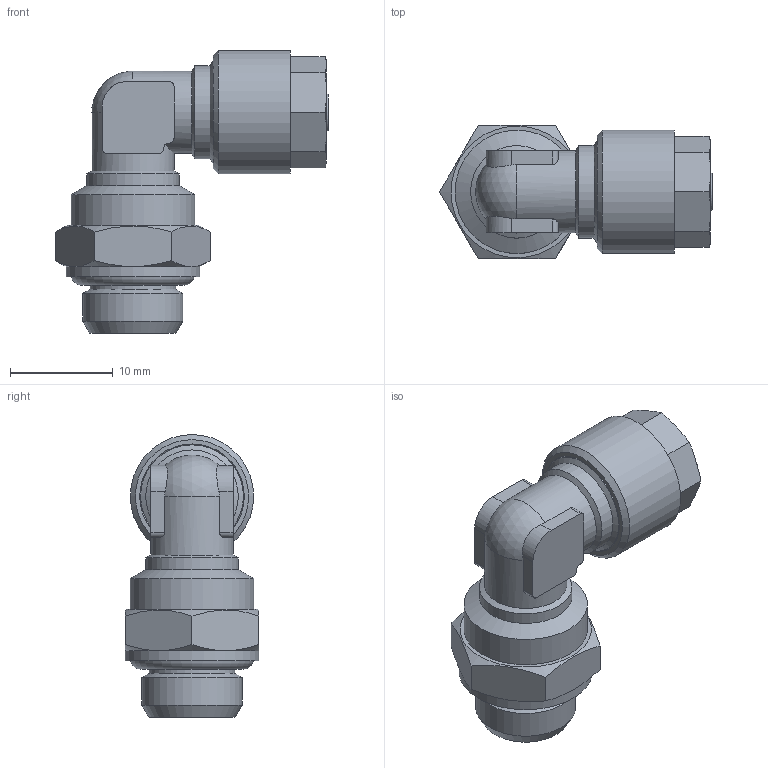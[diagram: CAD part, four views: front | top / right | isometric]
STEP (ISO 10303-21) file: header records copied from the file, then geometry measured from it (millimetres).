
FILE_DESCRIPTION(/* description */ (''),/* implementation_level */ '2;1');
FILE_NAME(/* name */ '11151_305DZ_64_G18_19.07.17',/* time_stamp */ '2017-07-19T11:50:46+02:00',/* author */ (''),/* organization */ (''),/* preprocessor_version */ 'ST-DEVELOPER v16.5',/* originating_system */ 'HiCAD 2016 2102.2 Build 618',/* authorisation */ '');
FILE_SCHEMA (('AUTOMOTIVE_DESIGN { 1 0 10303 214 1 1 1 1 }'));
Length unit declared in the file: millimetre
Products named in the file (5): Root; OR 7.2X1.9; 17005; R11151-N2; 214661-N2
Assembly tree (4 placements, depth 2):
  Root
    OR 7.2X1.9
    17005
    R11151-N2
    214661-N2
Bounding box: 26.51 x 13 x 27.5 mm (x, y, z)
Volume: 2811.8 mm3; surface area: 3459.8 mm2
Topology: 4 solids, 4 shells, 118 faces, 282 edges, 176 vertices
Faces by surface type: plane 42, cone 37, cylinder 34, torus 4, sphere 1
Full cylindrical faces by diameter (mm): 3.2 x1, 4 x1, 4.3 x1, 4.5 x1, 6 x2, 6.2 x1, 6.8 x2, 7.85 x1, 7.9 x1, 8 x2, 8.3 x1, 8.773 x1, 9 x2, 9.728 x1, 10 x1, 12 x2, 13 x1
Entity records: 7799 total; most frequent: CARTESIAN_POINT 3132, DIRECTION 576, PRESENTATION_STYLE_ASSIGNMENT 426, COLOUR_RGB 424, DRAUGHTING_PRE_DEFINED_CURVE_FONT 422, CURVE_STYLE 422, OVER_RIDING_STYLED_ITEM 422, ORIENTED_EDGE 422
